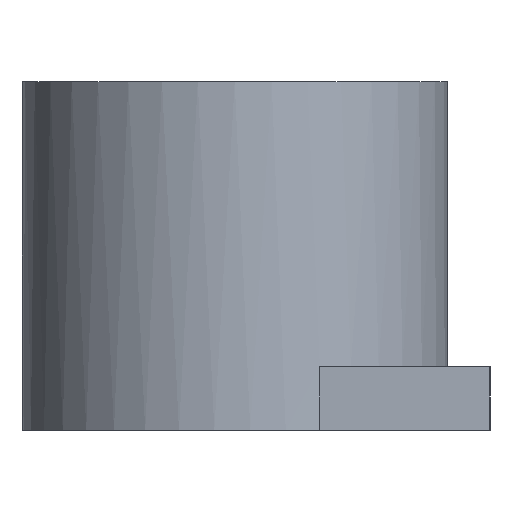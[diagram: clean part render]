
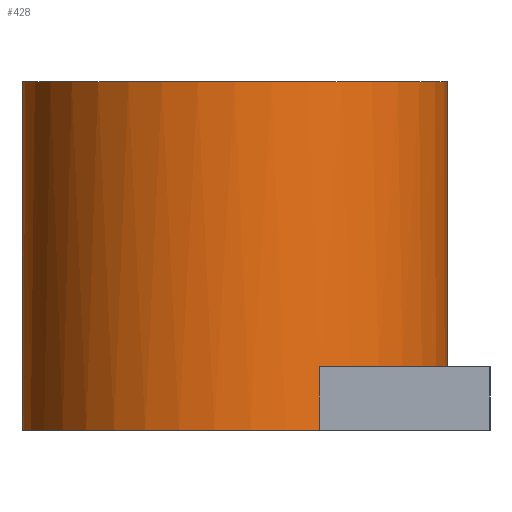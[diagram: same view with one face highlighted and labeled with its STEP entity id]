
A CAD part, left-side view. The second image highlights one B-rep face of the part: STEP entity #428.
In plain terms, the highlighted cylindrical face has radius 5 mm (diameter 10 mm), a full revolution.
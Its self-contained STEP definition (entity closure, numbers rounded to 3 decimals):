
#93 = VERTEX_POINT('',#94);
#94 = CARTESIAN_POINT('',(2.417,4.,1.5));
#196 = VERTEX_POINT('',#197);
#197 = CARTESIAN_POINT('',(11.583,4.,1.5));
#203 = EDGE_CURVE('',#93,#196,#204,.T.);
#204 = CIRCLE('',#205,5.);
#205 = AXIS2_PLACEMENT_3D('',#206,#207,#208);
#206 = CARTESIAN_POINT('',(7.,6.,1.5));
#207 = DIRECTION('',(0.,0.,1.));
#208 = DIRECTION('',(1.,0.,-0.));
#219 = VERTEX_POINT('',#220);
#220 = CARTESIAN_POINT('',(2.417,4.,0.));
#228 = EDGE_CURVE('',#219,#93,#229,.T.);
#229 = LINE('',#230,#231);
#230 = CARTESIAN_POINT('',(2.417,4.,0.));
#231 = VECTOR('',#232,1.);
#232 = DIRECTION('',(0.,0.,1.));
#243 = EDGE_CURVE('',#244,#219,#246,.T.);
#244 = VERTEX_POINT('',#245);
#245 = CARTESIAN_POINT('',(12.,6.,0.));
#246 = CIRCLE('',#247,5.);
#247 = AXIS2_PLACEMENT_3D('',#248,#249,#250);
#248 = CARTESIAN_POINT('',(7.,6.,0.));
#249 = DIRECTION('',(0.,0.,1.));
#250 = DIRECTION('',(1.,0.,-0.));
#252 = EDGE_CURVE('',#253,#244,#255,.T.);
#253 = VERTEX_POINT('',#254);
#254 = CARTESIAN_POINT('',(11.583,4.,0.));
#255 = CIRCLE('',#256,5.);
#256 = AXIS2_PLACEMENT_3D('',#257,#258,#259);
#257 = CARTESIAN_POINT('',(7.,6.,0.));
#258 = DIRECTION('',(0.,0.,1.));
#259 = DIRECTION('',(1.,0.,-0.));
#428 = ADVANCED_FACE('',(#429),#457,.T.);
#429 = FACE_BOUND('',#430,.T.);
#430 = EDGE_LOOP('',(#431,#439,#446,#447,#448,#449,#450,#456));
#431 = ORIENTED_EDGE('',*,*,#432,.T.);
#432 = EDGE_CURVE('',#244,#433,#435,.T.);
#433 = VERTEX_POINT('',#434);
#434 = CARTESIAN_POINT('',(12.,6.,8.2));
#435 = LINE('',#436,#437);
#436 = CARTESIAN_POINT('',(12.,6.,0.));
#437 = VECTOR('',#438,1.);
#438 = DIRECTION('',(0.,0.,1.));
#439 = ORIENTED_EDGE('',*,*,#440,.F.);
#440 = EDGE_CURVE('',#433,#433,#441,.T.);
#441 = CIRCLE('',#442,5.);
#442 = AXIS2_PLACEMENT_3D('',#443,#444,#445);
#443 = CARTESIAN_POINT('',(7.,6.,8.2));
#444 = DIRECTION('',(0.,0.,1.));
#445 = DIRECTION('',(1.,0.,-0.));
#446 = ORIENTED_EDGE('',*,*,#432,.F.);
#447 = ORIENTED_EDGE('',*,*,#243,.T.);
#448 = ORIENTED_EDGE('',*,*,#228,.T.);
#449 = ORIENTED_EDGE('',*,*,#203,.T.);
#450 = ORIENTED_EDGE('',*,*,#451,.F.);
#451 = EDGE_CURVE('',#253,#196,#452,.T.);
#452 = LINE('',#453,#454);
#453 = CARTESIAN_POINT('',(11.583,4.,0.));
#454 = VECTOR('',#455,1.);
#455 = DIRECTION('',(0.,0.,1.));
#456 = ORIENTED_EDGE('',*,*,#252,.T.);
#457 = CYLINDRICAL_SURFACE('',#458,5.);
#458 = AXIS2_PLACEMENT_3D('',#459,#460,#461);
#459 = CARTESIAN_POINT('',(7.,6.,0.));
#460 = DIRECTION('',(0.,0.,1.));
#461 = DIRECTION('',(1.,0.,-0.));
